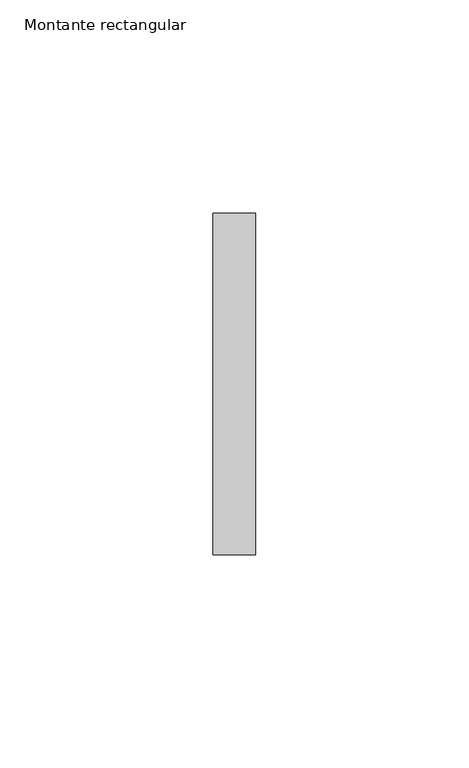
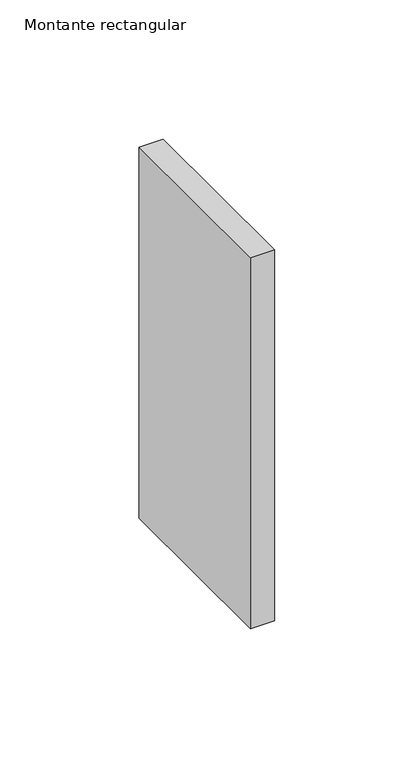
"""IFC4 building model written with IfcOpenShell, lengths in millimetres: member geometry, Montante rectangular : Junta de paves."""

from ifc_helpers import new_model, si_unit, frame, origin, place, context, project, spatial, polyline, outline, extrude, source, transform, mapped, element, save


def montante_rectangular_e4d02805(model_context):
    return source(origin(), model_context, "Body", "SweptSolid", [
        extrude(outline(polyline([(0.0, 40.0), (0.0, -40.0), (-10.0, -40.0), (-10.0, 40.0), (0.0, 40.0)])), frame((0.0, 0.0, -162.5), z_axis=(0.0, 0.0, 1.0), x_axis=(1.0, 0.0, 0.0)), (0.0, 0.0, 1.0), 162.5),
    ])


if __name__ == "__main__":
    model = new_model("IFC4")
    model_context = context("Model", 3, world=origin())
    ifc_project = project(units=[si_unit("LENGTHUNIT", "METRE", prefix="MILLI")], contexts=[model_context])
    site = spatial("IfcSite", under=ifc_project)
    building = spatial("IfcBuilding", under=site)
    placement = place(None, origin())
    montante_rectangular_shape = montante_rectangular_e4d02805(model_context)
    element("IfcMember", 1, ObjectType="Montante rectangular : Junta de paves", at=placement, inside=building, context=model_context, shape_type="MappedRepresentation", body=[
        mapped(montante_rectangular_shape, transform((0.0, 0.0, 0.0), x_axis=(1.0, 0.0, 0.0), y_axis=(0.0, 1.0, 0.0), z_axis=(0.0, 0.0, 1.0))),
    ])
    save(model, "model.ifc")
